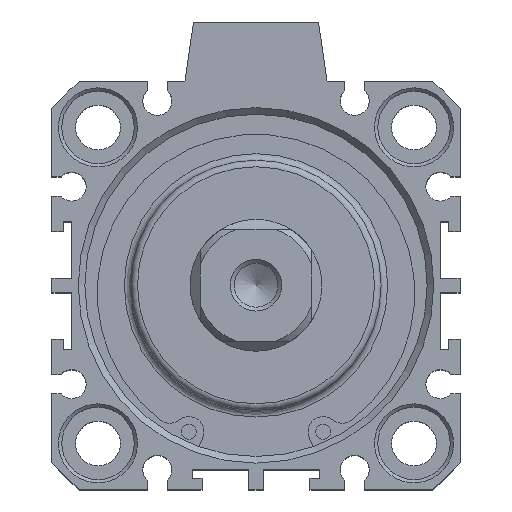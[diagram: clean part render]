
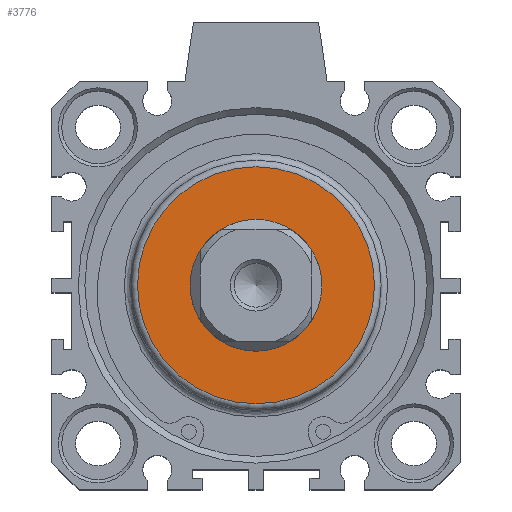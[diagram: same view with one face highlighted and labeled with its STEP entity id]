
A CAD part, top view. The second image highlights one B-rep face of the part: STEP entity #3776.
In plain terms, the highlighted planar face has unit normal (0, 0, 1).
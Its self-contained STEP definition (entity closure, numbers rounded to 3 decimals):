
#3276=CARTESIAN_POINT('',(-7.057,11.794,52.5));
#3277=VERTEX_POINT('',#3276);
#3278=CARTESIAN_POINT('',(-7.057,1.794,52.5));
#3279=DIRECTION('',(0.0,0.0,-1.0));
#3280=DIRECTION('',(0.0,1.0,0.0));
#3281=AXIS2_PLACEMENT_3D('',#3278,#3279,#3280);
#3282=CIRCLE('',#3281,10.0);
#3283=EDGE_CURVE('',#3277,#3277,#3282,.T.);
#3750=CARTESIAN_POINT('',(-7.057,19.794,52.5));
#3751=VERTEX_POINT('',#3750);
#3752=CARTESIAN_POINT('',(-7.057,1.794,52.5));
#3753=DIRECTION('',(0.0,0.0,-1.0));
#3754=DIRECTION('',(0.0,-1.0,0.0));
#3755=AXIS2_PLACEMENT_3D('',#3752,#3753,#3754);
#3756=CIRCLE('',#3755,18.0);
#3757=EDGE_CURVE('',#3751,#3751,#3756,.T.);
#3765=CARTESIAN_POINT('',(-7.057,11.294,52.5));
#3766=DIRECTION('',(0.0,0.0,1.0));
#3767=DIRECTION('',(1.0,0.0,0.0));
#3768=AXIS2_PLACEMENT_3D('',#3765,#3766,#3767);
#3769=PLANE('',#3768);
#3770=ORIENTED_EDGE('',*,*,#3757,.F.);
#3771=EDGE_LOOP('',(#3770));
#3772=FACE_OUTER_BOUND('',#3771,.T.);
#3773=ORIENTED_EDGE('',*,*,#3283,.T.);
#3774=EDGE_LOOP('',(#3773));
#3775=FACE_BOUND('',#3774,.T.);
#3776=ADVANCED_FACE('',(#3772,#3775),#3769,.T.);
